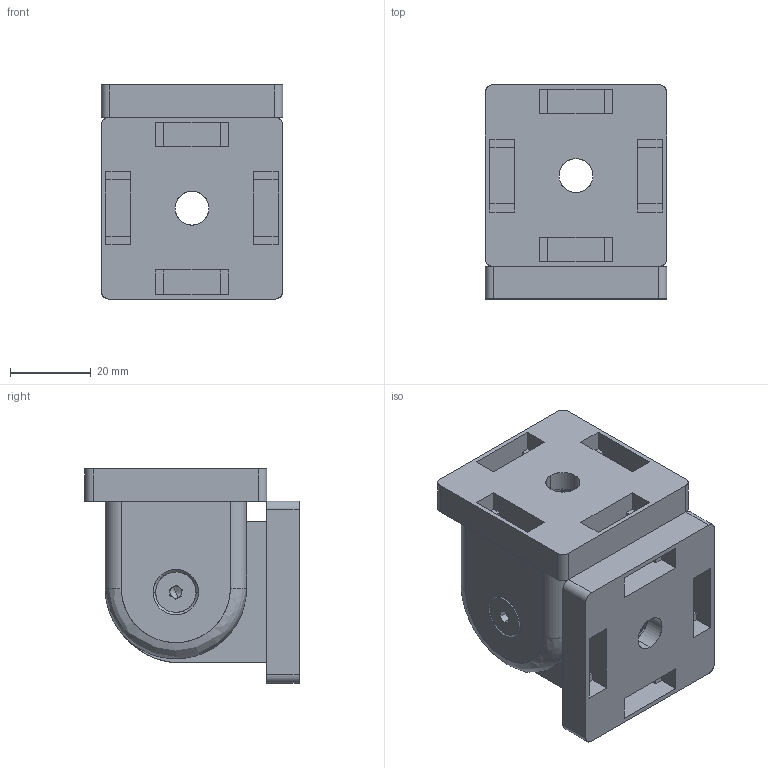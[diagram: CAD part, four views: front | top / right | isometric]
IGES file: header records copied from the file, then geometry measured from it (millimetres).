
Start section: SolidWorks IGES file using analytic representation for surfaces
Global section: file name: D:\LETROMEC CATALOGUE\SWIVEL JOINT\CP-SJ45X45\CP-SJ45X45.IGS; native system: SolidWorks 2013; preprocessor: SolidWorks 2013; author: User; date: 180316.203321; units: millimetre
Bounding box: 45 x 53 x 53 mm (x, y, z)
Surface area: 25204.2 mm2 (no closed solid volume)
Topology: 0 solids, 0 shells, 202 faces, 1836 edges, 1832 vertices
Faces by surface type: bspline 148, revolution 54
